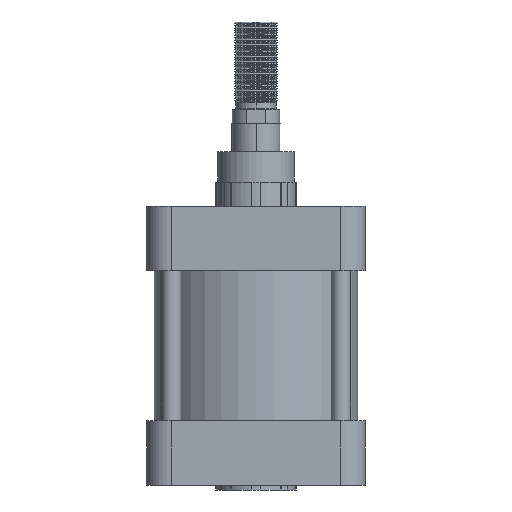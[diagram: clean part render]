
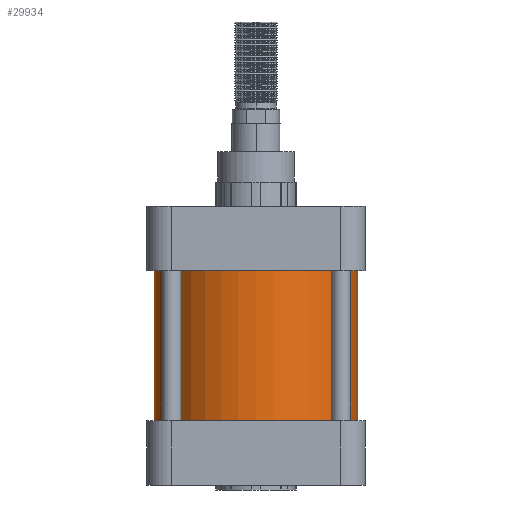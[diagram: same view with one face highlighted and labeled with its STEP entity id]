
A CAD part, front view. The second image highlights one B-rep face of the part: STEP entity #29934.
In plain terms, the highlighted cylindrical face has radius 84 mm (diameter 168 mm), a partial arc.
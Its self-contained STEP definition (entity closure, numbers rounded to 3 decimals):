
#22721 = CARTESIAN_POINT ( 'NONE',  ( -84., 0., 124. ) ) ;
#22724 = CARTESIAN_POINT ( 'NONE',  ( 84., 0., 124. ) ) ;
#22841 = VERTEX_POINT ( 'NONE', #22724 ) ;
#22888 = VERTEX_POINT ( 'NONE', #22721 ) ;
#23011 = DIRECTION ( 'NONE',  ( 0., 0., -1. ) ) ;
#23012 = VECTOR ( 'NONE', #23011, 1000. ) ;
#23013 = CARTESIAN_POINT ( 'NONE',  ( 84., 0., 124. ) ) ;
#23014 = LINE ( 'NONE', #23013, #23012 ) ;
#24351 = DIRECTION ( 'NONE',  ( 0., 0., -1. ) ) ;
#24352 = VECTOR ( 'NONE', #24351, 1000. ) ;
#24353 = CARTESIAN_POINT ( 'NONE',  ( -84., 0., 124. ) ) ;
#24355 = LINE ( 'NONE', #24353, #24352 ) ;
#24458 = DIRECTION ( 'NONE',  ( -1., 0., 0. ) ) ;
#24459 = DIRECTION ( 'NONE',  ( 0., 0., -1. ) ) ;
#24460 = AXIS2_PLACEMENT_3D ( 'NONE', #24471, #24459, #24458 ) ;
#24466 = CYLINDRICAL_SURFACE ( 'NONE', #24460, 84. ) ;
#24467 = FACE_OUTER_BOUND ( 'NONE', #29927, .T. ) ;
#24471 = CARTESIAN_POINT ( 'NONE',  ( 0., 0., 124. ) ) ;
#25029 = DIRECTION ( 'NONE',  ( 1., 0., 0. ) ) ;
#25030 = DIRECTION ( 'NONE',  ( 0., 0., 1. ) ) ;
#25031 = AXIS2_PLACEMENT_3D ( 'NONE', #25044, #25030, #25029 ) ;
#25032 = CIRCLE ( 'NONE', #25031, 84. ) ;
#25044 = CARTESIAN_POINT ( 'NONE',  ( 0., 0., 0. ) ) ;
#26284 = CARTESIAN_POINT ( 'NONE',  ( -84., 0., 0. ) ) ;
#26391 = CARTESIAN_POINT ( 'NONE',  ( 84., 0., 0. ) ) ;
#28591 = DIRECTION ( 'NONE',  ( 1., 0., 0. ) ) ;
#28592 = DIRECTION ( 'NONE',  ( 0., 0., 1. ) ) ;
#28593 = CARTESIAN_POINT ( 'NONE',  ( 0., 0., 124. ) ) ;
#28594 = AXIS2_PLACEMENT_3D ( 'NONE', #28593, #28592, #28591 ) ;
#28599 = CIRCLE ( 'NONE', #28594, 84. ) ;
#29110 = EDGE_CURVE ( 'NONE', #22841, #30544, #23014, .T. ) ;
#29876 = EDGE_CURVE ( 'NONE', #22888, #30505, #24355, .T. ) ;
#29889 = ORIENTED_EDGE ( 'NONE', *, *, #30089, .T. ) ;
#29892 = ORIENTED_EDGE ( 'NONE', *, *, #29876, .T. ) ;
#29901 = ORIENTED_EDGE ( 'NONE', *, *, #40093, .F. ) ;
#29911 = ORIENTED_EDGE ( 'NONE', *, *, #29110, .F. ) ;
#29927 = EDGE_LOOP ( 'NONE', ( #29911, #29901, #29892, #29889 ) ) ;
#29934 = ADVANCED_FACE ( 'NONE', ( #24467 ), #24466, .T. ) ;
#30089 = EDGE_CURVE ( 'NONE', #30505, #30544, #25032, .T. ) ;
#30505 = VERTEX_POINT ( 'NONE', #26284 ) ;
#30544 = VERTEX_POINT ( 'NONE', #26391 ) ;
#40093 = EDGE_CURVE ( 'NONE', #22888, #22841, #28599, .T. ) ;
